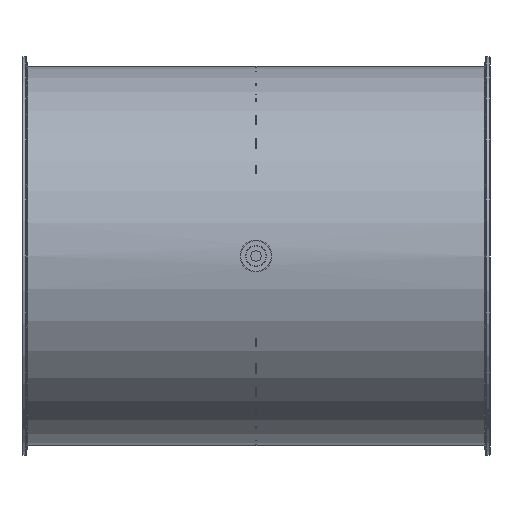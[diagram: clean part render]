
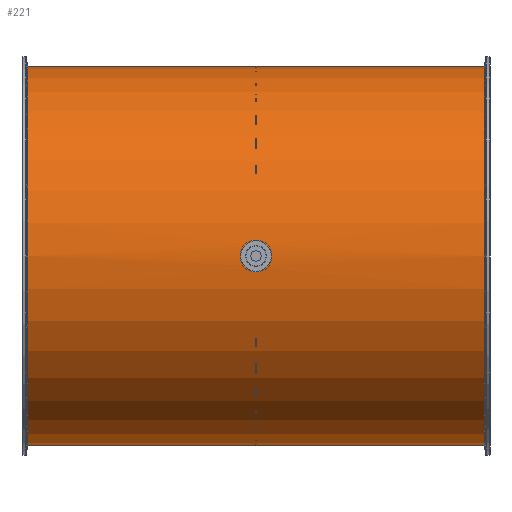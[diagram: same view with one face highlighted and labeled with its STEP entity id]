
A CAD part, front view. The second image highlights one B-rep face of the part: STEP entity #221.
In plain terms, the highlighted cylindrical face has radius 178.3 mm (diameter 356.6 mm), a full revolution.
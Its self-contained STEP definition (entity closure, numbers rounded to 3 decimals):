
#165=B_SPLINE_CURVE_WITH_KNOTS('',3,(#1313,#1314,#1315,#1316,#1317,#1318,
#1319,#1320,#1321,#1322,#1323,#1324,#1325,#1326,#1327,#1328,#1329,#1330),
 .UNSPECIFIED.,.T.,.F.,(2,2,2,2,2,2,2,2,2,2,2),(-0.125,0.,0.125,0.25,0.375,
0.5,0.625,0.75,0.875,1.,1.125),.UNSPECIFIED.);
#166=B_SPLINE_CURVE_WITH_KNOTS('',3,(#1332,#1333,#1334,#1335,#1336,#1337,
#1338,#1339,#1340,#1341,#1342,#1343,#1344,#1345,#1346,#1347,#1348,#1349),
 .UNSPECIFIED.,.T.,.F.,(2,2,2,2,2,2,2,2,2,2,2),(-0.125,0.,0.125,0.25,0.375,
0.5,0.625,0.75,0.875,1.,1.125),.UNSPECIFIED.);
#189=CYLINDRICAL_SURFACE('',#924,178.3);
#221=ADVANCED_FACE('',(#313,#314,#315,#316),#189,.T.);
#313=FACE_BOUND('',#415,.T.);
#314=FACE_BOUND('',#416,.T.);
#315=FACE_BOUND('',#417,.T.);
#316=FACE_BOUND('',#418,.T.);
#415=EDGE_LOOP('',(#531));
#416=EDGE_LOOP('',(#532));
#417=EDGE_LOOP('',(#533));
#418=EDGE_LOOP('',(#534));
#531=ORIENTED_EDGE('',*,*,#769,.T.);
#532=ORIENTED_EDGE('',*,*,#770,.F.);
#533=ORIENTED_EDGE('',*,*,#771,.F.);
#534=ORIENTED_EDGE('',*,*,#772,.T.);
#695=VERTEX_POINT('',#1312);
#696=VERTEX_POINT('',#1331);
#697=VERTEX_POINT('',#1350);
#698=VERTEX_POINT('',#1352);
#769=EDGE_CURVE('',#695,#695,#855,.T.);
#770=EDGE_CURVE('',#696,#696,#165,.T.);
#771=EDGE_CURVE('',#697,#697,#166,.T.);
#772=EDGE_CURVE('',#698,#698,#856,.T.);
#855=CIRCLE('',#922,178.3);
#856=CIRCLE('',#923,178.3);
#922=AXIS2_PLACEMENT_3D('',#1311,#1058,#1059);
#923=AXIS2_PLACEMENT_3D('',#1351,#1060,#1061);
#924=AXIS2_PLACEMENT_3D('',#1353,#1062,#1063);
#1058=DIRECTION('',(-1.,0.,0.));
#1059=DIRECTION('',(0.,0.,-1.));
#1060=DIRECTION('',(1.,0.,0.));
#1061=DIRECTION('',(0.,0.,1.));
#1062=DIRECTION('',(1.,0.,0.));
#1063=DIRECTION('',(0.,0.,-1.));
#1311=CARTESIAN_POINT('',(214.804,-51.,125.));
#1312=CARTESIAN_POINT('',(214.804,-51.,-53.3));
#1313=CARTESIAN_POINT('',(2.643,127.019,115.));
#1314=CARTESIAN_POINT('',(-2.643,127.019,115.));
#1315=CARTESIAN_POINT('',(-5.227,127.087,116.085));
#1316=CARTESIAN_POINT('',(-8.916,127.233,119.775));
#1317=CARTESIAN_POINT('',(-9.999,127.3,122.385));
#1318=CARTESIAN_POINT('',(-10.001,127.3,127.604));
#1319=CARTESIAN_POINT('',(-8.941,127.234,130.2));
#1320=CARTESIAN_POINT('',(-5.209,127.086,133.935));
#1321=CARTESIAN_POINT('',(-2.614,127.019,134.999));
#1322=CARTESIAN_POINT('',(2.607,127.019,135.001));
#1323=CARTESIAN_POINT('',(5.218,127.086,133.92));
#1324=CARTESIAN_POINT('',(8.91,127.233,130.236));
#1325=CARTESIAN_POINT('',(9.997,127.3,127.649));
#1326=CARTESIAN_POINT('',(10.003,127.3,122.371));
#1327=CARTESIAN_POINT('',(8.921,127.233,119.782));
#1328=CARTESIAN_POINT('',(5.232,127.087,116.087));
#1329=CARTESIAN_POINT('',(2.643,127.019,115.));
#1330=CARTESIAN_POINT('',(-2.643,127.019,115.));
#1331=CARTESIAN_POINT('',(0.,127.019,115.));
#1332=CARTESIAN_POINT('',(-2.643,-229.019,115.));
#1333=CARTESIAN_POINT('',(2.643,-229.019,115.));
#1334=CARTESIAN_POINT('',(5.227,-229.087,116.085));
#1335=CARTESIAN_POINT('',(8.916,-229.233,119.775));
#1336=CARTESIAN_POINT('',(9.999,-229.3,122.385));
#1337=CARTESIAN_POINT('',(10.001,-229.3,127.604));
#1338=CARTESIAN_POINT('',(8.941,-229.234,130.2));
#1339=CARTESIAN_POINT('',(5.209,-229.086,133.935));
#1340=CARTESIAN_POINT('',(2.614,-229.019,134.999));
#1341=CARTESIAN_POINT('',(-2.607,-229.019,135.001));
#1342=CARTESIAN_POINT('',(-5.218,-229.086,133.92));
#1343=CARTESIAN_POINT('',(-8.91,-229.233,130.236));
#1344=CARTESIAN_POINT('',(-9.997,-229.3,127.649));
#1345=CARTESIAN_POINT('',(-10.003,-229.3,122.371));
#1346=CARTESIAN_POINT('',(-8.921,-229.233,119.782));
#1347=CARTESIAN_POINT('',(-5.232,-229.087,116.087));
#1348=CARTESIAN_POINT('',(-2.643,-229.019,115.));
#1349=CARTESIAN_POINT('',(2.643,-229.019,115.));
#1350=CARTESIAN_POINT('',(0.,-229.019,115.));
#1351=CARTESIAN_POINT('',(-214.804,-51.,125.));
#1352=CARTESIAN_POINT('',(-214.804,-51.,303.3));
#1353=CARTESIAN_POINT('',(-220.,-51.,125.));
